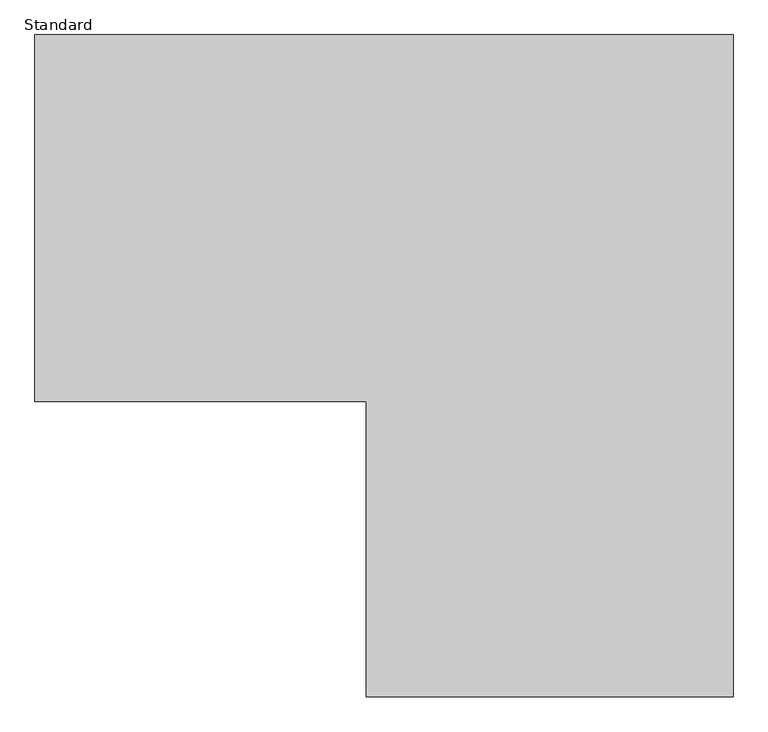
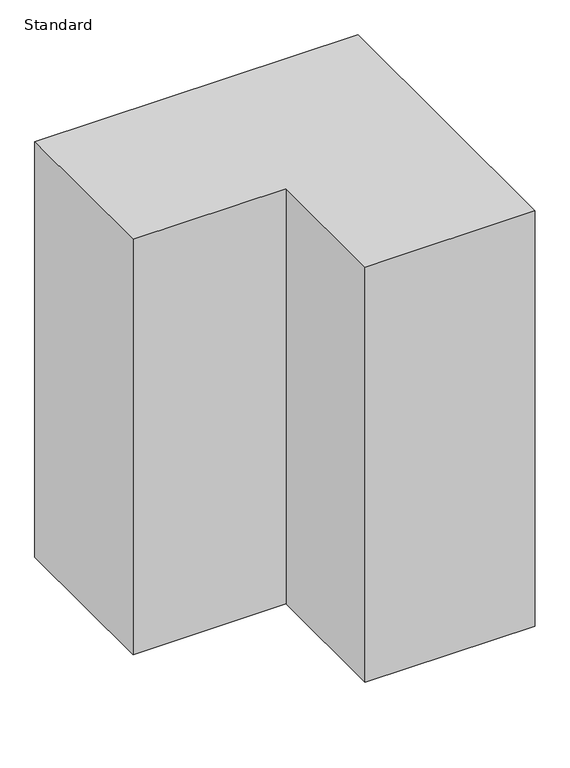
"""IFC4 building model written with IfcOpenShell, lengths in millimetres: proxy geometry, Clearance-Door-Circulation-AS1428.1-2021-Duracube : Standard."""

from ifc_helpers import new_model, si_unit, origin, origin_with_axes, place, context, project, spatial, polyline, outline, extrude, source, transform, mapped, element, save


def standard_dce6ad6e(model_context):
    return source(origin(), model_context, "Body", "SweptSolid", [
        extrude(outline(polyline([(450.0, 812.5), (450.0, -812.5), (-450.0, -812.5), (-450.0, -87.5), (-1262.5, -87.5), (-1262.5, 812.5), (450.0, 812.5)])), origin_with_axes(), (0.0, 0.0, 1.0), 2324.0),
    ])


if __name__ == "__main__":
    model = new_model("IFC4")
    model_context = context("Model", 3, world=origin())
    ifc_project = project(units=[si_unit("LENGTHUNIT", "METRE", prefix="MILLI")], contexts=[model_context])
    site = spatial("IfcSite", under=ifc_project)
    building = spatial("IfcBuilding", under=site)
    placement = place(None, origin())
    standard_shape = standard_dce6ad6e(model_context)
    element("IfcBuildingElementProxy", 1, Name="Clearance-Door-Circulation-AS1428.1-2021-Duracube : Standard", ObjectType="Clearance-Door-Circulation-AS1428.1-2021-Duracube : Standard", at=placement, inside=building, context=model_context, shape_type="MappedRepresentation", body=[
        mapped(standard_shape, transform((0.0, 0.0, 0.0), x_axis=(1.0, 0.0, 0.0), y_axis=(0.0, 1.0, 0.0), z_axis=(0.0, 0.0, 1.0))),
    ])
    save(model, "model.ifc")
